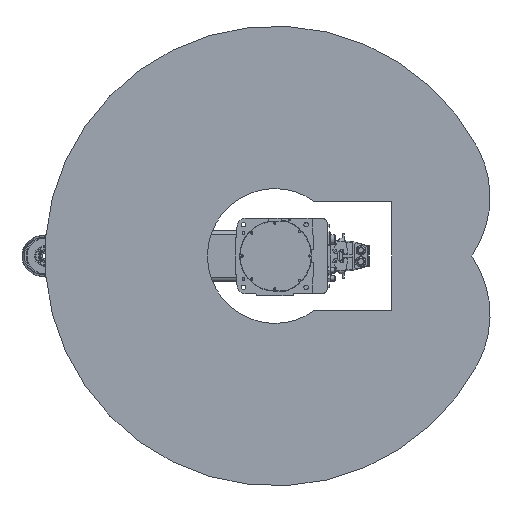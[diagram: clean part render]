
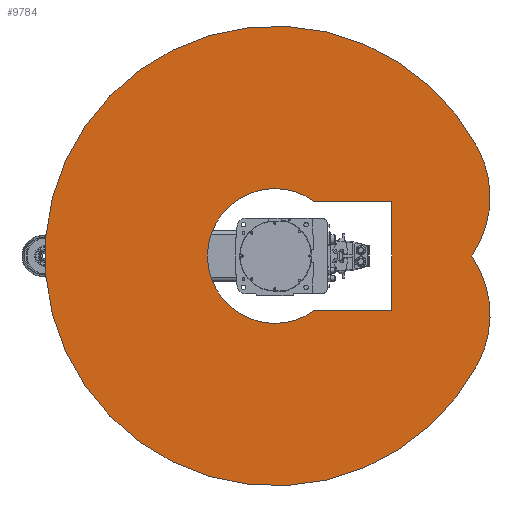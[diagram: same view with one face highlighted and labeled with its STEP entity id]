
A CAD part, front view. The second image highlights one B-rep face of the part: STEP entity #9784.
In plain terms, the highlighted planar face has unit normal (0, -1, 0).
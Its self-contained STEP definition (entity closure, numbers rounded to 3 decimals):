
#9784 = ADVANCED_FACE( '', ( #20910, #20911 ), #20912, .F. );
#20910 = FACE_OUTER_BOUND( '', #32829, .T. );
#20911 = FACE_BOUND( '', #32830, .T. );
#20912 = PLANE( '', #32831 );
#32829 = EDGE_LOOP( '', ( #58670, #58671, #58672 ) );
#32830 = EDGE_LOOP( '', ( #58673, #58674, #58675, #58676 ) );
#32831 = AXIS2_PLACEMENT_3D( '', #58677, #58678, #58679 );
#58670 = ORIENTED_EDGE( '', *, *, #69120, .F. );
#58671 = ORIENTED_EDGE( '', *, *, #61314, .F. );
#58672 = ORIENTED_EDGE( '', *, *, #68942, .F. );
#58673 = ORIENTED_EDGE( '', *, *, #61433, .T. );
#58674 = ORIENTED_EDGE( '', *, *, #68822, .T. );
#58675 = ORIENTED_EDGE( '', *, *, #69179, .T. );
#58676 = ORIENTED_EDGE( '', *, *, #68070, .T. );
#58677 = CARTESIAN_POINT( '', ( 70.421, 0., 132.442 ) );
#58678 = DIRECTION( '', ( 0., 1., 0. ) );
#58679 = DIRECTION( '', ( 0., 0., 1. ) );
#61314 = EDGE_CURVE( '', #72745, #72746, #72747, .T. );
#61433 = EDGE_CURVE( '', #72953, #72951, #72954, .T. );
#68070 = EDGE_CURVE( '', #82666, #72953, #82667, .T. );
#68822 = EDGE_CURVE( '', #72951, #83500, #83501, .T. );
#68942 = EDGE_CURVE( '', #83626, #72745, #83627, .T. );
#69120 = EDGE_CURVE( '', #72746, #83626, #83810, .T. );
#69179 = EDGE_CURVE( '', #83500, #82666, #83869, .T. );
#72745 = VERTEX_POINT( '', #89991 );
#72746 = VERTEX_POINT( '', #89992 );
#72747 = CIRCLE( '', #89993, 250. );
#72951 = VERTEX_POINT( '', #90262 );
#72953 = VERTEX_POINT( '', #90265 );
#72954 = LINE( '', #90266, #90267 );
#82666 = VERTEX_POINT( '', #106936 );
#82667 = CIRCLE( '', #106937, 161.22 );
#83500 = VERTEX_POINT( '', #108083 );
#83501 = LINE( '', #108084, #108085 );
#83626 = VERTEX_POINT( '', #108250 );
#83627 = CIRCLE( '', #108251, 550. );
#83810 = CIRCLE( '', #108487, 250. );
#83869 = LINE( '', #108588, #108589 );
#89991 = CARTESIAN_POINT( '', ( -258.209, 0., 485.621 ) );
#89992 = CARTESIAN_POINT( '', ( 0., 0., 471.436 ) );
#89993 = AXIS2_PLACEMENT_3D( '', #111218, #111219, #111220 );
#90262 = CARTESIAN_POINT( '', ( -130., 0., 280. ) );
#90265 = CARTESIAN_POINT( '', ( -130., 0., 95.351 ) );
#90266 = CARTESIAN_POINT( '', ( -130., 0., 0. ) );
#90267 = VECTOR( '', #111384, 1000. );
#106936 = CARTESIAN_POINT( '', ( 130., 0., 95.351 ) );
#106937 = AXIS2_PLACEMENT_3D( '', #119182, #119183, #119184 );
#108083 = CARTESIAN_POINT( '', ( 130., 0., 280. ) );
#108084 = CARTESIAN_POINT( '', ( -130., 0., 280. ) );
#108085 = VECTOR( '', #119709, 1000. );
#108250 = CARTESIAN_POINT( '', ( 258.209, 0., 485.621 ) );
#108251 = AXIS2_PLACEMENT_3D( '', #119764, #119765, #119766 );
#108487 = AXIS2_PLACEMENT_3D( '', #119835, #119836, #119837 );
#108588 = CARTESIAN_POINT( '', ( 130., 0., 280. ) );
#108589 = VECTOR( '', #119841, 1000. );
#111218 = CARTESIAN_POINT( '', ( -140.841, 0., 264.884 ) );
#111219 = DIRECTION( '', ( 0., 1., 0. ) );
#111220 = DIRECTION( '', ( 1., 0., 0. ) );
#111384 = DIRECTION( '', ( 0., 0., 1. ) );
#119182 = CARTESIAN_POINT( '', ( 0., 0., 0. ) );
#119183 = DIRECTION( '', ( 0., 1., 0. ) );
#119184 = DIRECTION( '', ( 1., 0., 0. ) );
#119709 = DIRECTION( '', ( 1., 0., 0. ) );
#119764 = CARTESIAN_POINT( '', ( 0., 0., 0. ) );
#119765 = DIRECTION( '', ( 0., 1., 0. ) );
#119766 = DIRECTION( '', ( 1., 0., 0. ) );
#119835 = CARTESIAN_POINT( '', ( 140.841, 0., 264.884 ) );
#119836 = DIRECTION( '', ( 0., 1., 0. ) );
#119837 = DIRECTION( '', ( 1., 0., 0. ) );
#119841 = DIRECTION( '', ( 0., 0., -1. ) );
